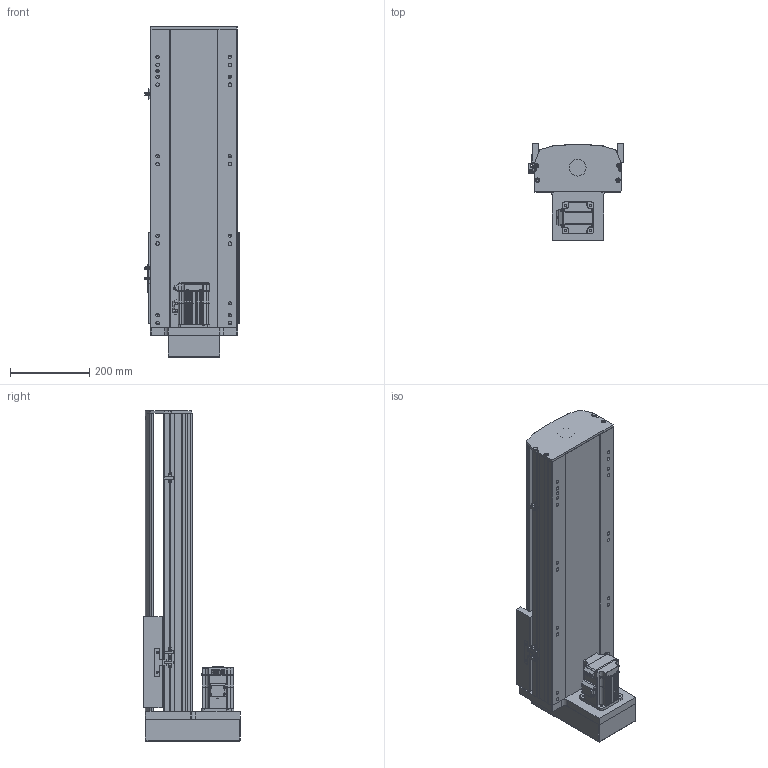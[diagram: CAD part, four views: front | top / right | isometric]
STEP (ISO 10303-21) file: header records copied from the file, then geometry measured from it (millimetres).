
FILE_DESCRIPTION (( 'STEP AP214' ), '1' );
FILE_NAME ('QTH22-450-BM-P75.STEP', '2021-12-13T12:08:37', ( '' ), ( '' ), 'SwSTEP 2.0', 'SolidWorks 2020', '' );
FILE_SCHEMA (( 'AUTOMOTIVE_DESIGN' ));
Length unit declared in the file: millimetre
Products named in the file (6): 葩璃 QTH22-BC-005 賑釱MZ-220-03^QTH22-BM-P75_SFA25; 葩璃 pm-t65-672^QTH22-BM-P75; QTH22-450-BM-P75; 葩璃 QTH22-BM-002 奻裔MZ-220-02^QTH22-BM-P75; 葩璃 QTH22-BM-001 菁釱MZ-220-01^QTH22-BM-P75; 葩璃 MSMD08PC_P75^QTH22-BM-P75
Assembly tree (7 placements, depth 2):
  QTH22-450-BM-P75
    葩璃 QTH22-BM-001 菁釱MZ-220-01^QTH22-BM-P75
    葩璃 QTH22-BM-002 奻裔MZ-220-02^QTH22-BM-P75
    葩璃 QTH22-BC-005 賑釱MZ-220-03^QTH22-BM-P75_SFA25
    葩璃 pm-t65-672^QTH22-BM-P75  x3
    葩璃 MSMD08PC_P75^QTH22-BM-P75
Bounding box: 238.7 x 244 x 832 mm (x, y, z)
Volume: 12610708.4 mm3; surface area: 1416569.1 mm2
Topology: 11 solids, 11 shells, 1545 faces, 4108 edges, 2635 vertices
Faces by surface type: plane 914, cylinder 527, cone 82, bspline 22
Entity records: 43203 total; most frequent: CARTESIAN_POINT 9049, DIRECTION 6895, ORIENTED_EDGE 6792, EDGE_CURVE 3396, LINE 2319, VECTOR 2319, AXIS2_PLACEMENT_3D 2288, VERTEX_POINT 2211
